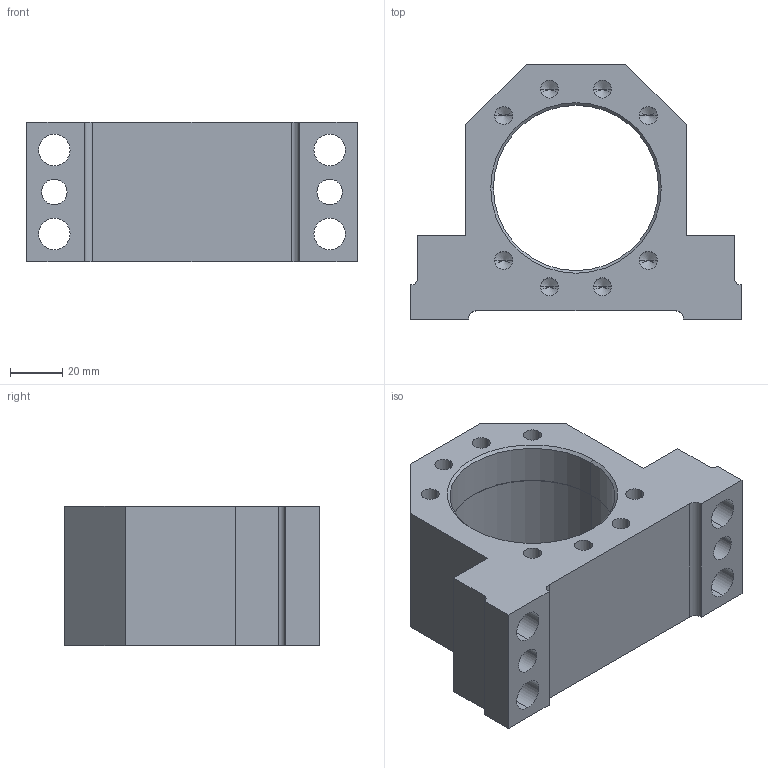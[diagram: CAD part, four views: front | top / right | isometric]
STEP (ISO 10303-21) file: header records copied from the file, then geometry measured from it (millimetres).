
FILE_DESCRIPTION (( 'STEP AP203' ), '1' );
FILE_NAME ('GFD-40.STEP', '2002-08-15T13:55:17', ( '.' ), ( '.' ), 'SwSTEP 2.0', 'SolidWorks 2001340', '' );
FILE_SCHEMA (( 'CONFIG_CONTROL_DESIGN' ));
Length unit declared in the file: millimetre
Products named in the file (1): GFD-40
Bounding box: 126 x 97 x 53 mm (x, y, z)
Volume: 261175.3 mm3; surface area: 53841.2 mm2
Topology: 1 solids, 1 shells, 71 faces, 186 edges, 110 vertices
Faces by surface type: cylinder 36, cone 18, plane 17
Entity records: 2183 total; most frequent: DIRECTION 388, CARTESIAN_POINT 352, ORIENTED_EDGE 340, EDGE_CURVE 170, AXIS2_PLACEMENT_3D 146, VERTEX_POINT 110, LINE 96, VECTOR 96
